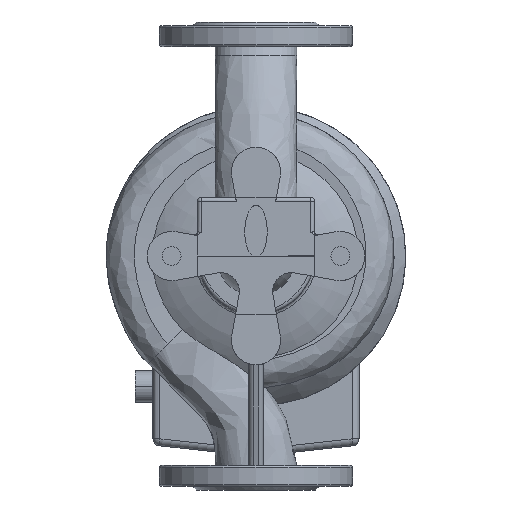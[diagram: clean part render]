
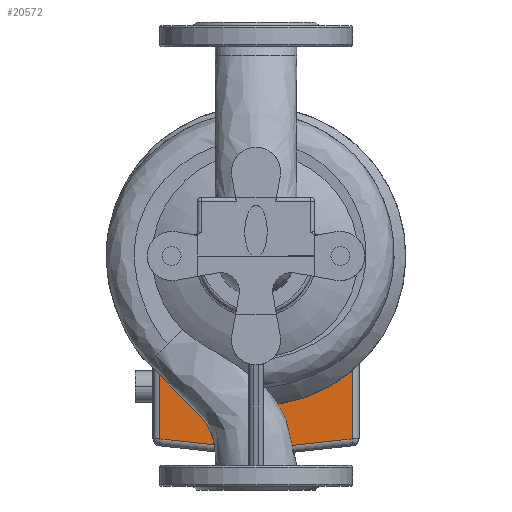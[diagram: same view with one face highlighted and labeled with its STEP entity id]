
A CAD part, front view. The second image highlights one B-rep face of the part: STEP entity #20572.
In plain terms, the highlighted planar face has unit normal (0, -1, 0) as drawn and (0, 0, 1) by its records, which use the part's own axes.
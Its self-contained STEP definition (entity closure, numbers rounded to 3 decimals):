
#1152 = CARTESIAN_POINT ( 'NONE',  ( -97.182, 64., -113.5 ) ) ;
#1283 = DIRECTION ( 'NONE',  ( 1., 0., 0. ) ) ;
#1494 = LINE ( 'NONE', #25946, #21523 ) ;
#1717 = CIRCLE ( 'NONE', #2582, 213.5 ) ;
#1812 = CARTESIAN_POINT ( 'NONE',  ( 0., -338., -113.5 ) ) ;
#2240 = EDGE_CURVE ( 'NONE', #15408, #16902, #19762, .T. ) ;
#2582 = AXIS2_PLACEMENT_3D ( 'NONE', #22617, #5892, #4147 ) ;
#3153 = VECTOR ( 'NONE', #3655, 1000. ) ;
#3225 = ORIENTED_EDGE ( 'NONE', *, *, #8511, .T. ) ;
#3655 = DIRECTION ( 'NONE',  ( 0., 1., 0. ) ) ;
#3711 = DIRECTION ( 'NONE',  ( 1., 0., 0. ) ) ;
#3723 = EDGE_CURVE ( 'NONE', #5745, #16684, #7203, .T. ) ;
#4147 = DIRECTION ( 'NONE',  ( 1., 0., 0. ) ) ;
#4473 = ORIENTED_EDGE ( 'NONE', *, *, #3723, .T. ) ;
#5048 = VECTOR ( 'NONE', #1283, 1000. ) ;
#5585 = AXIS2_PLACEMENT_3D ( 'NONE', #25429, #9255, #25552 ) ;
#5642 = VERTEX_POINT ( 'NONE', #21181 ) ;
#5701 = CIRCLE ( 'NONE', #20655, 213.5 ) ;
#5745 = VERTEX_POINT ( 'NONE', #11013 ) ;
#5788 = CIRCLE ( 'NONE', #14316, 90.5 ) ;
#5887 = DIRECTION ( 'NONE',  ( 1., 0., 0. ) ) ;
#5892 = DIRECTION ( 'NONE',  ( 0., 0., 1. ) ) ;
#5916 = EDGE_CURVE ( 'NONE', #16902, #18463, #1717, .T. ) ;
#6858 = ORIENTED_EDGE ( 'NONE', *, *, #12165, .T. ) ;
#7203 = CIRCLE ( 'NONE', #22153, 501. ) ;
#7359 = ORIENTED_EDGE ( 'NONE', *, *, #2240, .T. ) ;
#7483 = ORIENTED_EDGE ( 'NONE', *, *, #13565, .F. ) ;
#7563 = ORIENTED_EDGE ( 'NONE', *, *, #5916, .T. ) ;
#8511 = EDGE_CURVE ( 'NONE', #16684, #5642, #13005, .T. ) ;
#9131 = DIRECTION ( 'NONE',  ( 0., -1., 0. ) ) ;
#9255 = DIRECTION ( 'NONE',  ( 0., 0., 1. ) ) ;
#9866 = DIRECTION ( 'NONE',  ( 0., 0., 1. ) ) ;
#9971 = DIRECTION ( 'NONE',  ( 0., 0., 1. ) ) ;
#10126 = EDGE_CURVE ( 'NONE', #21845, #5642, #12107, .T. ) ;
#10274 = CARTESIAN_POINT ( 'NONE',  ( -97.799, 62., -113.5 ) ) ;
#10318 = ORIENTED_EDGE ( 'NONE', *, *, #10126, .F. ) ;
#10393 = ORIENTED_EDGE ( 'NONE', *, *, #16060, .T. ) ;
#11013 = CARTESIAN_POINT ( 'NONE',  ( 82.1, 156.227, -113.5 ) ) ;
#11392 = FACE_OUTER_BOUND ( 'NONE', #14324, .T. ) ;
#11862 = EDGE_CURVE ( 'NONE', #21363, #5745, #23851, .T. ) ;
#11943 = CARTESIAN_POINT ( 'NONE',  ( 82.1, 107., -113.5 ) ) ;
#12107 = LINE ( 'NONE', #17999, #5048 ) ;
#12165 = EDGE_CURVE ( 'NONE', #15537, #23150, #1494, .T. ) ;
#12916 = VECTOR ( 'NONE', #21890, 1000. ) ;
#13005 = LINE ( 'NONE', #21292, #18486 ) ;
#13135 = CARTESIAN_POINT ( 'NONE',  ( 65.926, 62., -113.5 ) ) ;
#13236 = CARTESIAN_POINT ( 'NONE',  ( 97.799, 62., -113.5 ) ) ;
#13565 = EDGE_CURVE ( 'NONE', #21363, #18463, #13924, .T. ) ;
#13924 = LINE ( 'NONE', #21960, #16847 ) ;
#14143 = CARTESIAN_POINT ( 'NONE',  ( 106.5, 0., -113.5 ) ) ;
#14316 = AXIS2_PLACEMENT_3D ( 'NONE', #20683, #22681, #22554 ) ;
#14324 = EDGE_LOOP ( 'NONE', ( #7483, #17540, #4473, #3225, #10318, #21660, #6858, #10393, #7359, #7563 ) ) ;
#15408 = VERTEX_POINT ( 'NONE', #13135 ) ;
#15537 = VERTEX_POINT ( 'NONE', #10274 ) ;
#16060 = EDGE_CURVE ( 'NONE', #23150, #15408, #5788, .T. ) ;
#16684 = VERTEX_POINT ( 'NONE', #20881 ) ;
#16847 = VECTOR ( 'NONE', #22488, 1000. ) ;
#16902 = VERTEX_POINT ( 'NONE', #13236 ) ;
#17540 = ORIENTED_EDGE ( 'NONE', *, *, #11862, .T. ) ;
#17999 = CARTESIAN_POINT ( 'NONE',  ( -107., 64., -113.5 ) ) ;
#18142 = DIRECTION ( 'NONE',  ( 0., -1., 0. ) ) ;
#18463 = VERTEX_POINT ( 'NONE', #25998 ) ;
#18486 = VECTOR ( 'NONE', #9131, 1000. ) ;
#19681 = PLANE ( 'NONE',  #5585 ) ;
#19762 = LINE ( 'NONE', #24157, #12916 ) ;
#20520 = CARTESIAN_POINT ( 'NONE',  ( -65.926, 62., -113.5 ) ) ;
#20564 = CARTESIAN_POINT ( 'NONE',  ( 82.1, 64., -113.5 ) ) ;
#20572 = ADVANCED_FACE ( 'NONE', ( #11392 ), #19681, .T. ) ;
#20655 = AXIS2_PLACEMENT_3D ( 'NONE', #14143, #9866, #3711 ) ;
#20683 = CARTESIAN_POINT ( 'NONE',  ( 0., 0., -113.5 ) ) ;
#20881 = CARTESIAN_POINT ( 'NONE',  ( -82.1, 156.227, -113.5 ) ) ;
#21181 = CARTESIAN_POINT ( 'NONE',  ( -82.1, 64., -113.5 ) ) ;
#21292 = CARTESIAN_POINT ( 'NONE',  ( -82.1, 107., -113.5 ) ) ;
#21363 = VERTEX_POINT ( 'NONE', #20564 ) ;
#21523 = VECTOR ( 'NONE', #5887, 1000. ) ;
#21660 = ORIENTED_EDGE ( 'NONE', *, *, #25730, .T. ) ;
#21845 = VERTEX_POINT ( 'NONE', #1152 ) ;
#21890 = DIRECTION ( 'NONE',  ( 1., 0., 0. ) ) ;
#21960 = CARTESIAN_POINT ( 'NONE',  ( -107., 64., -113.5 ) ) ;
#22153 = AXIS2_PLACEMENT_3D ( 'NONE', #1812, #9971, #18142 ) ;
#22488 = DIRECTION ( 'NONE',  ( 1., 0., 0. ) ) ;
#22554 = DIRECTION ( 'NONE',  ( 1., 0., 0. ) ) ;
#22617 = CARTESIAN_POINT ( 'NONE',  ( -106.5, 0., -113.5 ) ) ;
#22681 = DIRECTION ( 'NONE',  ( 0., 0., -1. ) ) ;
#23150 = VERTEX_POINT ( 'NONE', #20520 ) ;
#23851 = LINE ( 'NONE', #11943, #3153 ) ;
#24157 = CARTESIAN_POINT ( 'NONE',  ( -107., 62., -113.5 ) ) ;
#25429 = CARTESIAN_POINT ( 'NONE',  ( 51.5, 107., -113.5 ) ) ;
#25552 = DIRECTION ( 'NONE',  ( 0., -1., 0. ) ) ;
#25730 = EDGE_CURVE ( 'NONE', #21845, #15537, #5701, .T. ) ;
#25946 = CARTESIAN_POINT ( 'NONE',  ( -107., 62., -113.5 ) ) ;
#25998 = CARTESIAN_POINT ( 'NONE',  ( 97.182, 64., -113.5 ) ) ;
